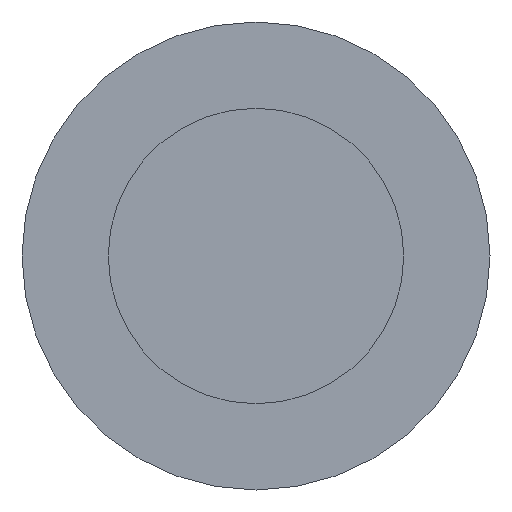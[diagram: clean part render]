
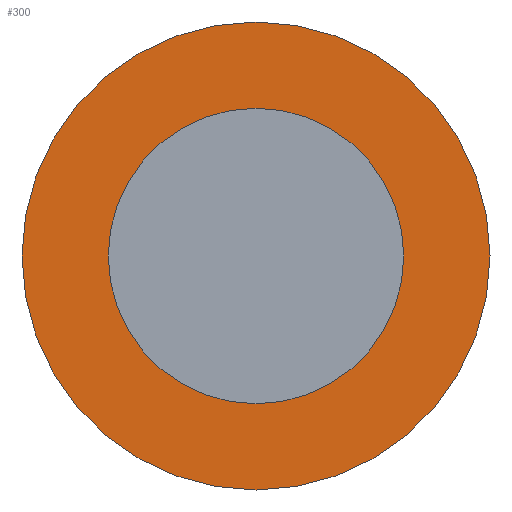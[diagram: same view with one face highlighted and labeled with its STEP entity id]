
A CAD part, front view. The second image highlights one B-rep face of the part: STEP entity #300.
In plain terms, the highlighted planar face has unit normal (0, -1, 0).
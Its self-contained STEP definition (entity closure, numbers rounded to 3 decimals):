
#4 = EDGE_CURVE ( 'NONE', #107, #58, #23, .T. ) ;
#6 = EDGE_CURVE ( 'NONE', #58, #107, #192, .T. ) ;
#16 = DIRECTION ( 'NONE',  ( 0., 1., 0. ) ) ;
#17 = FACE_BOUND ( 'NONE', #240, .T. ) ;
#23 = CIRCLE ( 'NONE', #146, 4.75 ) ;
#24 = CARTESIAN_POINT ( 'NONE',  ( 0., 5., 4.75 ) ) ;
#54 = FACE_OUTER_BOUND ( 'NONE', #223, .T. ) ;
#58 = VERTEX_POINT ( 'NONE', #132 ) ;
#62 = AXIS2_PLACEMENT_3D ( 'NONE', #150, #270, #218 ) ;
#72 = DIRECTION ( 'NONE',  ( 0., 1., 0. ) ) ;
#81 = CARTESIAN_POINT ( 'NONE',  ( 0., 5., 0. ) ) ;
#92 = AXIS2_PLACEMENT_3D ( 'NONE', #81, #119, #122 ) ;
#93 = AXIS2_PLACEMENT_3D ( 'NONE', #154, #295, #173 ) ;
#107 = VERTEX_POINT ( 'NONE', #24 ) ;
#119 = DIRECTION ( 'NONE',  ( 0., 1., 0. ) ) ;
#122 = DIRECTION ( 'NONE',  ( 0., 0., 1. ) ) ;
#132 = CARTESIAN_POINT ( 'NONE',  ( 0., 5., -4.75 ) ) ;
#146 = AXIS2_PLACEMENT_3D ( 'NONE', #246, #16, #205 ) ;
#150 = CARTESIAN_POINT ( 'NONE',  ( 0., 5., 0. ) ) ;
#152 = CIRCLE ( 'NONE', #93, 3. ) ;
#154 = CARTESIAN_POINT ( 'NONE',  ( 0., 5., 0. ) ) ;
#173 = DIRECTION ( 'NONE',  ( 0., 0., 1. ) ) ;
#192 = CIRCLE ( 'NONE', #92, 4.75 ) ;
#198 = VERTEX_POINT ( 'NONE', #286 ) ;
#201 = DIRECTION ( 'NONE',  ( 0., 0., 1. ) ) ;
#205 = DIRECTION ( 'NONE',  ( 0., 0., 1. ) ) ;
#218 = DIRECTION ( 'NONE',  ( 0., 0., 1. ) ) ;
#223 = EDGE_LOOP ( 'NONE', ( #318, #252 ) ) ;
#226 = CIRCLE ( 'NONE', #62, 3. ) ;
#240 = EDGE_LOOP ( 'NONE', ( #248, #289 ) ) ;
#246 = CARTESIAN_POINT ( 'NONE',  ( 0., 5., 0. ) ) ;
#247 = PLANE ( 'NONE',  #305 ) ;
#248 = ORIENTED_EDGE ( 'NONE', *, *, #296, .T. ) ;
#252 = ORIENTED_EDGE ( 'NONE', *, *, #4, .F. ) ;
#270 = DIRECTION ( 'NONE',  ( 0., 1., 0. ) ) ;
#284 = EDGE_CURVE ( 'NONE', #198, #320, #152, .T. ) ;
#286 = CARTESIAN_POINT ( 'NONE',  ( 0., 5., 3. ) ) ;
#289 = ORIENTED_EDGE ( 'NONE', *, *, #284, .T. ) ;
#295 = DIRECTION ( 'NONE',  ( 0., 1., 0. ) ) ;
#296 = EDGE_CURVE ( 'NONE', #320, #198, #226, .T. ) ;
#298 = CARTESIAN_POINT ( 'NONE',  ( 0., 5., -3. ) ) ;
#300 = ADVANCED_FACE ( 'NONE', ( #17, #54 ), #247, .F. ) ;
#305 = AXIS2_PLACEMENT_3D ( 'NONE', #321, #72, #201 ) ;
#318 = ORIENTED_EDGE ( 'NONE', *, *, #6, .F. ) ;
#320 = VERTEX_POINT ( 'NONE', #298 ) ;
#321 = CARTESIAN_POINT ( 'NONE',  ( 0., 5., 0. ) ) ;
